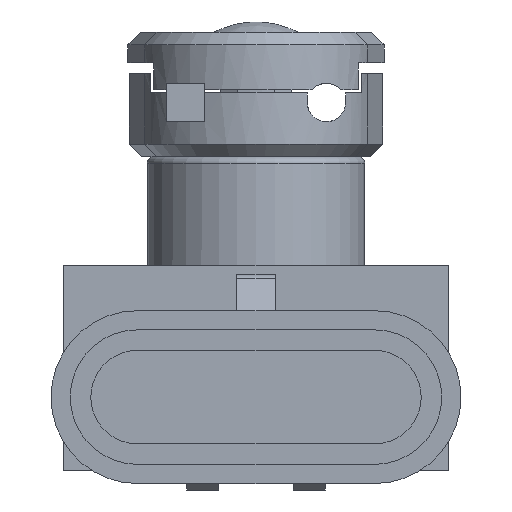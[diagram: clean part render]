
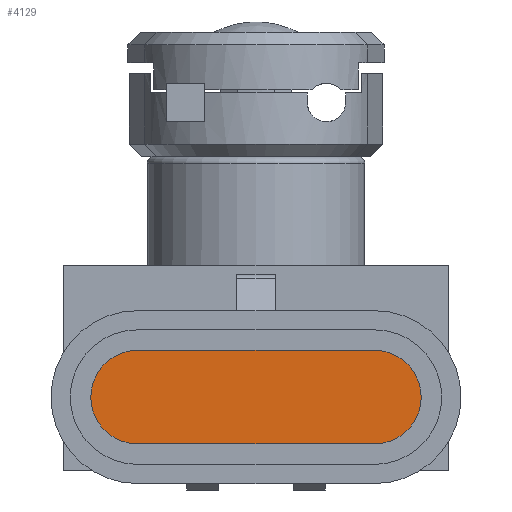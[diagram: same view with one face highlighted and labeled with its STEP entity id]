
A CAD part, front view. The second image highlights one B-rep face of the part: STEP entity #4129.
In plain terms, the highlighted planar face has unit normal (0, -1, 0) as drawn and (0, 0, -1) by its records, which use the part's own axes.
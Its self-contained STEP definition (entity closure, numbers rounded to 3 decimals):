
#140=LINE('',#6197,#590);
#144=LINE('',#6209,#594);
#590=VECTOR('',#5005,18.5);
#594=VECTOR('',#5017,18.5);
#967=PLANE('',#4421);
#1188=FACE_OUTER_BOUND('',#1432,.T.);
#1432=EDGE_LOOP('',(#3028,#3029,#3030,#3031));
#1668=CIRCLE('',#4416,3.65);
#1670=CIRCLE('',#4420,3.65);
#1867=VERTEX_POINT('',#6194);
#1868=VERTEX_POINT('',#6196);
#1870=VERTEX_POINT('',#6202);
#1872=VERTEX_POINT('',#6208);
#2300=EDGE_CURVE('',#1868,#1867,#140,.T.);
#2303=EDGE_CURVE('',#1870,#1868,#1668,.T.);
#2306=EDGE_CURVE('',#1872,#1870,#144,.T.);
#2309=EDGE_CURVE('',#1867,#1872,#1670,.T.);
#3028=ORIENTED_EDGE('',*,*,#2303,.T.);
#3029=ORIENTED_EDGE('',*,*,#2300,.T.);
#3030=ORIENTED_EDGE('',*,*,#2309,.T.);
#3031=ORIENTED_EDGE('',*,*,#2306,.T.);
#4129=ADVANCED_FACE('',(#1188),#967,.F.);
#4416=AXIS2_PLACEMENT_3D('',#6203,#5011,#5012);
#4420=AXIS2_PLACEMENT_3D('',#6213,#5023,#5024);
#4421=AXIS2_PLACEMENT_3D('',#6214,#5025,#5026);
#5005=DIRECTION('',(1.,0.,0.));
#5011=DIRECTION('center_axis',(0.,0.,-1.));
#5012=DIRECTION('ref_axis',(1.,0.,0.));
#5017=DIRECTION('',(-1.,0.,0.));
#5023=DIRECTION('center_axis',(0.,0.,-1.));
#5024=DIRECTION('ref_axis',(1.,0.,0.));
#5025=DIRECTION('center_axis',(0.,0.,1.));
#5026=DIRECTION('ref_axis',(1.,0.,0.));
#6194=CARTESIAN_POINT('',(9.25,-2.1,-60.5));
#6196=CARTESIAN_POINT('',(-9.25,-2.1,-60.5));
#6197=CARTESIAN_POINT('',(-9.25,-2.1,-60.5));
#6202=CARTESIAN_POINT('',(-9.25,-9.4,-60.5));
#6203=CARTESIAN_POINT('Origin',(-9.25,-5.75,-60.5));
#6208=CARTESIAN_POINT('',(9.25,-9.4,-60.5));
#6209=CARTESIAN_POINT('',(9.25,-9.4,-60.5));
#6213=CARTESIAN_POINT('Origin',(9.25,-5.75,-60.5));
#6214=CARTESIAN_POINT('Origin',(-9.25,-5.75,-60.5));
